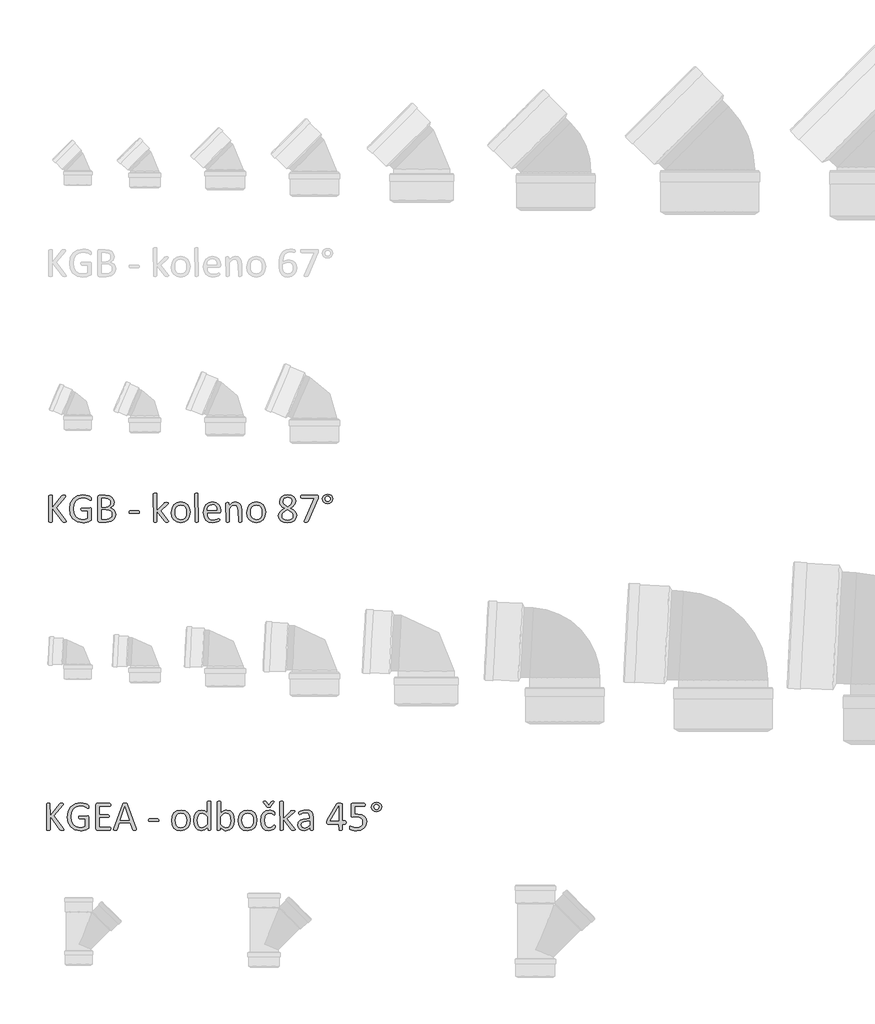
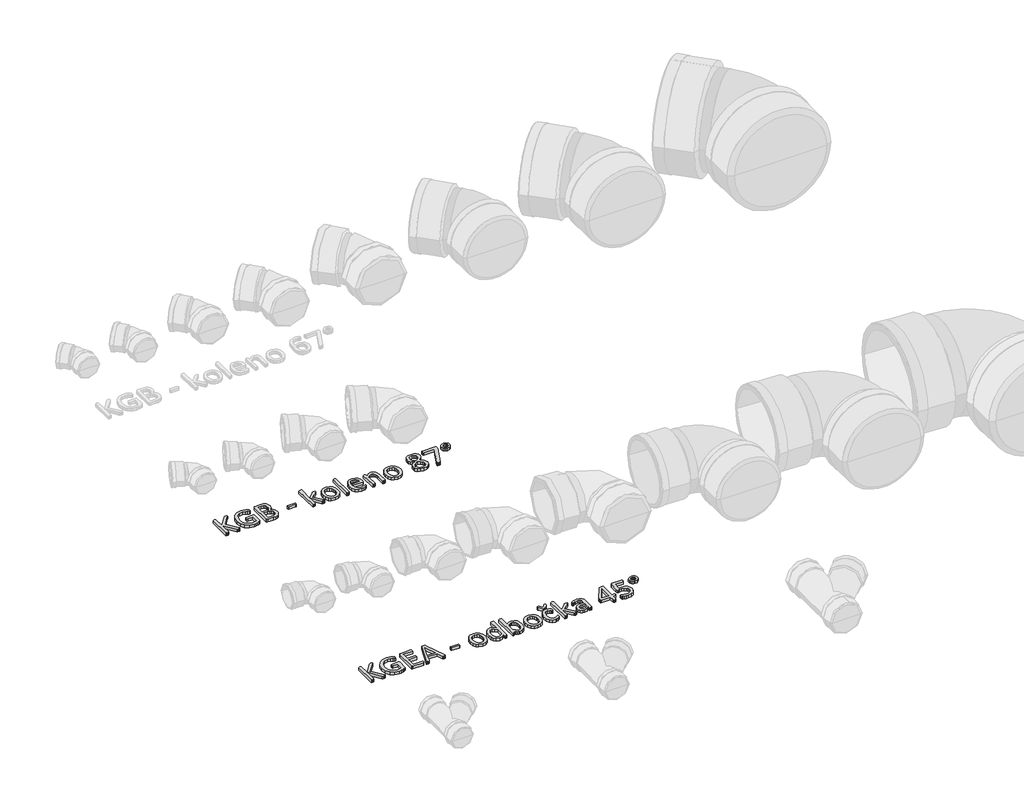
# One storey, part 9 of 11: 2 proxies.
"""IFC4 building model written with IfcOpenShell, lengths in millimetres."""

import ifcopenshell
import ifcopenshell.guid

model = None  # the IFC model being written
_history = None  # IfcOwnerHistory: only IFC2X3 demands one
_inside = {}  # id of a spatial element -> (the spatial element, [elements in it])
_under = {}  # id of a project, library or spatial element -> (it, [spatial elements below it])
_declared = {}  # id of a project -> (the project, [libraries it declares])
_typed = {}  # id of a type object -> (the type object, [elements of that type])
_made_of = {}  # id of a material, layer set ... -> (it, [elements and type objects made of it])


def new_model(schema):
    """Start an empty IFC model of exactly this schema.

    Asked for "IFC4X3", IfcOpenShell would pick the latest addendum, in which some entities
    have other attributes; the version numbers below select the first issue.
    IFC2X3 requires an IfcOwnerHistory on every rooted entity: one is made here for all.
    """
    global model, _history
    if schema == "IFC4X3":
        model = ifcopenshell.file(schema_version=(4, 3, 0, 0))
    else:
        model = ifcopenshell.file(schema=schema)
    _inside.clear()
    _under.clear()
    _declared.clear()
    _typed.clear()
    _made_of.clear()
    _history = None
    if model.schema == "IFC2X3":
        org = make("IfcOrganization", Name="unknown")
        user = make(
            "IfcPersonAndOrganization",
            ThePerson=make("IfcPerson", FamilyName="unknown"),
            TheOrganization=org,
        )
        app = make(
            "IfcApplication",
            ApplicationDeveloper=org,
            Version="unknown",
            ApplicationFullName="unknown",
            ApplicationIdentifier="unknown",
        )
        _history = make(
            "IfcOwnerHistory",
            OwningUser=user,
            OwningApplication=app,
            ChangeAction="ADDED",
            CreationDate=0,
        )
    return model


def make(cls, **values):
    """One entity of the class cls with the attributes given. An attribute that is None is left unset."""
    return model.create_entity(
        cls, **{name: value for name, value in values.items() if value is not None}
    )


def rooted(cls, **values):
    """An entity with a GlobalId (a new one), such as an element, a storey or a relation."""
    return make(cls, GlobalId=ifcopenshell.guid.new(), OwnerHistory=_history, **values)


def si_unit(unit_type, name, prefix=None):
    """IfcSIUnit, for example si_unit("LENGTHUNIT", "METRE", prefix="MILLI")."""
    return make("IfcSIUnit", UnitType=unit_type, Prefix=prefix, Name=name)


def assignment(units):
    """IfcUnitAssignment: the units of a project."""
    return None if units is None else make("IfcUnitAssignment", Units=units)


def point(xyz):
    """IfcCartesianPoint."""
    return None if xyz is None else make("IfcCartesianPoint", Coordinates=xyz)


def direction(xyz):
    """IfcDirection."""
    return None if xyz is None else make("IfcDirection", DirectionRatios=xyz)


def frame(location, z_axis=None, x_axis=None):
    """IfcAxis2Placement3D, a coordinate frame: its origin and axes. An axis left out is left unset."""
    return make(
        "IfcAxis2Placement3D",
        Location=point(location),
        Axis=direction(z_axis),
        RefDirection=direction(x_axis),
    )


def origin():
    """The frame at (0, 0, 0) with its axes left unset."""
    return frame((0.0, 0.0, 0.0))


def origin_with_axes():
    """The frame at (0, 0, 0) with the z axis (0, 0, 1) and the x axis (1, 0, 0) written out."""
    return frame((0.0, 0.0, 0.0), z_axis=(0.0, 0.0, 1.0), x_axis=(1.0, 0.0, 0.0))


def place(relative_to, where):
    """IfcLocalPlacement: puts the frame where relative to a parent placement (None: the world)."""
    return make(
        "IfcLocalPlacement", PlacementRelTo=relative_to, RelativePlacement=where
    )


def context(
    kind, dimensions, precision=None, world=None, true_north=None, identifier=None
):
    """IfcGeometricRepresentationContext, for example the 3D "Model" context."""
    return make(
        "IfcGeometricRepresentationContext",
        ContextIdentifier=identifier,
        ContextType=kind,
        CoordinateSpaceDimension=dimensions,
        Precision=precision,
        WorldCoordinateSystem=world,
        TrueNorth=true_north,
    )


def project(units=None, contexts=None):
    """IfcProject with its units and contexts."""
    return rooted(
        "IfcProject",
        Name="project",
        RepresentationContexts=contexts,
        UnitsInContext=assignment(units),
    )


def spatial(cls, under=None, at=None, **own):
    """A site, building, storey or space (cls), placed at a placement, below another one or the project."""
    s = rooted(cls, ObjectPlacement=at, **own)
    if under is not None:
        _under.setdefault(under.id(), (under, []))[1].append(s)
    return s


def polyline(points):
    """IfcPolyline through the points."""
    return make("IfcPolyline", Points=[point(p) for p in points])


def outline(outer, holes=None, kind="AREA"):
    """IfcArbitraryClosedProfileDef: a profile drawn as a closed curve; with holes, ...WithVoids."""
    if holes is None:
        return make("IfcArbitraryClosedProfileDef", ProfileType=kind, OuterCurve=outer)
    return make(
        "IfcArbitraryProfileDefWithVoids",
        ProfileType=kind,
        OuterCurve=outer,
        InnerCurves=holes,
    )


def extrude(swept, where, along, depth):
    """IfcExtrudedAreaSolid: the profile swept, set in the frame where, extruded along a direction by depth."""
    return make(
        "IfcExtrudedAreaSolid",
        SweptArea=swept,
        Position=where,
        ExtrudedDirection=direction(along),
        Depth=depth,
    )


def shape(context_of_items, identifier, shape_type, items):
    """IfcShapeRepresentation: the items that make up one representation, for example the "Body"."""
    return make(
        "IfcShapeRepresentation",
        ContextOfItems=context_of_items,
        RepresentationIdentifier=identifier,
        RepresentationType=shape_type,
        Items=items,
    )


def made_of(thing, what):
    """Note that an element or type object is made of a material, layer set ...; save() writes the relation."""
    if what is not None:
        _made_of.setdefault(what.id(), (what, []))[1].append(thing)
    return thing


def element(
    cls,
    number,
    at=None,
    inside=None,
    cuts=None,
    type_object=None,
    material=None,
    context=None,
    identifier="Body",
    shape_type=None,
    held_by="IfcProductDefinitionShape",
    body=None,
    shapes=None,
    **own,
):
    """One element of the class cls, such as IfcWall. Its Tag is "e" and its number.

    at: its placement. inside: the storey or other place that contains it. cuts: it is an
    opening in that element (IfcRelVoidsElement). A single representation is given by context,
    identifier, shape_type and body (its items); several are given by shapes. held_by: the class
    of the entity that holds the representations. save() writes the other relations.
    """
    e = rooted(cls, Tag="e%d" % number, ObjectPlacement=at, **own)
    if body is not None:
        shapes = [shape(context, identifier, shape_type, body)]
    if shapes is not None:
        e.Representation = make(held_by, Representations=shapes)
    if inside is not None:
        _inside.setdefault(inside.id(), (inside, []))[1].append(e)
    if cuts is not None:
        rooted(
            "IfcRelVoidsElement", RelatingBuildingElement=cuts, RelatedOpeningElement=e
        )
    if type_object is not None:
        _typed.setdefault(type_object.id(), (type_object, []))[1].append(e)
    return made_of(e, material)


def aggregate(whole, parts):
    """IfcRelAggregates: a whole, such as a stair, and the parts it consists of."""
    return rooted("IfcRelAggregates", RelatingObject=whole, RelatedObjects=parts)


def save(model, path):
    """Write the relations noted so far, then the file.

    IfcRelAggregates (storeys below a building ...), IfcRelContainedInSpatialStructure (elements
    in a storey), IfcRelDefinesByType, IfcRelAssociatesMaterial and IfcRelDeclares: one each for
    every whole, place, type object, material and project.
    """
    for whole, parts in _under.values():
        aggregate(whole, parts)
    for where, things in _inside.values():
        rooted(
            "IfcRelContainedInSpatialStructure",
            RelatedElements=things,
            RelatingStructure=where,
        )
    for kind, things in _typed.values():
        rooted("IfcRelDefinesByType", RelatedObjects=things, RelatingType=kind)
    for what, things in _made_of.values():
        rooted("IfcRelAssociatesMaterial", RelatedObjects=things, RelatingMaterial=what)
    for by, libraries in _declared.values():
        rooted("IfcRelDeclares", RelatingContext=by, RelatedDefinitions=libraries)
    model.write(path)


model = new_model("IFC4")

# Units and contexts
model_context = context("Model", 3, world=origin())
ifc_project = project(units=[si_unit("LENGTHUNIT", "METRE", prefix="MILLI")], contexts=[model_context])

# Site, building, storey
site = spatial("IfcSite", under=ifc_project)
building = spatial("IfcBuilding", under=site)
storey = spatial("IfcBuildingStorey", under=building, Name="Podlaží 1", Elevation=0.0)

# Proxies
placement = place(None, origin())
element("IfcBuildingElementProxy", 1, Name="120mm Arial", ObjectType="120mm Arial", at=placement, inside=storey, context=model_context, shape_type="SweptSolid", body=[
    extrude(outline(polyline([(-20472.3940185, 17748.9373299), (-20473.8234835, 17745.9155494), (-20476.3386182, 17745.3184311), (-20480.4098794, 17745.0832026), (-20485.6934717, 17745.35462), (-20488.7514412, 17746.3679117), (-20490.4342292, 17748.0506997), (-20534.5486061, 17807.6901526), (-20534.5486061, 17748.0506997), (-20536.2494886, 17745.8793604), (-20538.7465288, 17745.3184311), (-20542.6549395, 17745.0832026), (-20546.5271613, 17745.3184311), (-20549.0603905, 17745.8793604), (-20550.3812885, 17746.8021796), (-20550.3812885, 17862.5526591), (-20546.5271613, 17865.2849277), (-20542.6549395, 17865.5201562), (-20538.7465288, 17865.2849277), (-20536.2494886, 17864.7239984), (-20534.5486061, 17809.535791), (-20492.0989227, 17862.5526591), (-20490.7780246, 17863.9459352), (-20488.9866697, 17864.8325654), (-20486.399157, 17865.3392112), (-20482.4364628, 17865.5201562), (-20478.564241, 17865.2849277), (-20476.1938622, 17864.6878094), (-20475.2529486, 17860.1641859), (-20477.5509493, 17856.8347989), (-20517.3226476, 17809.535791), (-20474.4748853, 17752.9362131), (-20472.3940185, 17748.9373299)])), origin_with_axes(), (0.0, 0.0, 1.0), 15.0),
    extrude(outline(polyline([(-20360.8414616, 17849.7417572), (-20361.0224065, 17846.4666537), (-20361.5833359, 17844.096275), (-20362.5242496, 17842.7572824), (-20367.4278575, 17844.168653), (-20374.4123323, 17848.1494417), (-20384.8709499, 17852.1302304), (-20399.3103563, 17853.9396799), (-20417.1696221, 17850.2664975), (-20430.5595478, 17840.0973918), (-20438.9734876, 17824.6627882), (-20441.9047957, 17805.2654904), (-20438.7020702, 17784.5292), (-20429.8176736, 17769.2755414), (-20416.2648974, 17759.8664044), (-20399.0208444, 17756.6636789), (-20387.693691, 17757.984577), (-20377.0541284, 17761.9110823), (-20377.0541284, 17796.0372984), (-20404.0873028, 17796.0372984), (-20406.403398, 17797.7200863), (-20407.1633668, 17802.9493951), (-20406.9824219, 17806.1340261), (-20406.3853036, 17808.3053654), (-20366.4145658, 17809.9338699), (-20364.406077, 17809.57198), (-20362.578533, 17808.4682159), (-20361.293824, 17806.423538), (-20360.8414616, 17803.456041), (-20360.8414616, 17757.8579156), (-20361.6738083, 17753.6780874), (-20365.2022347, 17750.5839289), (-20372.1505205, 17747.6707153), (-20380.9444447, 17744.9927302), (-20390.1183533, 17743.3280367), (-20399.2741673, 17742.7671074), (-20424.1179079, 17747.145975), (-20442.610481, 17759.6130815), (-20454.1366738, 17778.9741903), (-20458.1174625, 17804.1798208), (-20453.8290674, 17830.4168374), (-20441.7238508, 17850.4474425), (-20422.9598603, 17863.2764389), (-20398.7313325, 17867.8362514), (-20385.8842416, 17866.6601093), (-20375.20849, 17863.9097462), (-20367.3554795, 17860.4717923), (-20362.9766119, 17857.4319172), (-20361.3119185, 17854.5729872), (-20360.8414616, 17849.7417572)])), origin_with_axes(), (0.0, 0.0, 1.0), 15.0),
    extrude(outline(polyline([(-20263.5654607, 17751.9952994), (-20263.7464056, 17748.9192354), (-20264.3978074, 17746.7298016), (-20265.4834771, 17745.463187), (-20324.7610401, 17745.0832026), (-20328.8142068, 17746.5307622), (-20330.7322232, 17751.5972206), (-20330.7322232, 17859.0061382), (-20328.7961123, 17864.0725966), (-20324.6886622, 17865.5201562), (-20266.7862807, 17865.5201562), (-20264.4159019, 17863.8735572), (-20263.8006891, 17861.6841234), (-20263.5654607, 17858.4271144), (-20263.8006891, 17855.3691449), (-20264.4159019, 17853.2159001), (-20314.5195564, 17851.6235846), (-20314.5195564, 17814.5660604), (-20273.6983774, 17814.5660604), (-20271.3099042, 17812.865178), (-20270.6946914, 17810.6757442), (-20270.5137465, 17807.3644517), (-20270.6946914, 17804.2702932), (-20271.3099042, 17802.1713319), (-20314.5195564, 17800.6694889), (-20314.5195564, 17758.9797742), (-20266.8224696, 17758.9797742), (-20264.3978074, 17757.3874587), (-20263.7464056, 17755.2342139), (-20263.5654607, 17751.9952994)])), origin_with_axes(), (0.0, 0.0, 1.0), 15.0),
    extrude(outline(polyline([(-20148.4844775, 17751.3438976), (-20147.7064142, 17748.0506997), (-20148.394005, 17746.1145888), (-20150.8548562, 17745.2641476), (-20155.4327632, 17745.0832026), (-20160.0468593, 17745.2279586), (-20162.6343719, 17745.6984154), (-20164.7333333, 17747.9783217), (-20175.011006, 17777.5085363), (-20224.915621, 17777.5085363), (-20234.7228369, 17748.3764006), (-20235.4828057, 17746.928841), (-20236.8217982, 17745.8793604), (-20239.3188384, 17745.2641476), (-20243.5529501, 17745.0832026), (-20247.9499122, 17745.3184311), (-20250.3564799, 17746.2050613), (-20251.0078817, 17748.1230777), (-20250.211724, 17751.4162756), (-20209.9695688, 17862.2269582), (-20209.0105606, 17863.8735572), (-20207.2373002, 17864.8687544), (-20204.2698031, 17865.3754002), (-20199.6918961, 17865.5201562), (-20194.7701937, 17865.3754002), (-20191.6036572, 17864.8687544), (-20189.7580188, 17863.8373682), (-20188.7266326, 17862.1545802), (-20148.4844775, 17751.3438976)]), holes=[polyline([(-20200.126164, 17849.3074893), (-20220.8986433, 17789.0890126), (-20179.1727396, 17789.0890126), (-20200.126164, 17849.3074893)])]), origin_with_axes(), (0.0, 0.0, 1.0), 15.0),
    extrude(outline(polyline([(-20048.1686015, 17790.2832492), (-20049.0190427, 17785.7234367), (-20051.4979884, 17784.4568221), (-20091.0887418, 17784.4568221), (-20093.6400655, 17785.7596256), (-20094.4905067, 17790.2832492), (-20093.6400655, 17794.7706838), (-20091.0887418, 17796.0372984), (-20051.4979884, 17796.0372984), (-20048.4038299, 17792.9974233), (-20048.1686015, 17790.2832492)])), origin_with_axes(), (0.0, 0.0, 1.0), 15.0),
    extrude(outline(polyline([(-19906.8867906, 17789.9937373), (-19909.5647758, 17771.0126129), (-19917.5806367, 17756.0665606), (-19930.9343735, 17746.2774393), (-19949.517419, 17742.7671074), (-19967.4309683, 17745.8612659), (-19980.1694922, 17754.8542295), (-19987.7691798, 17769.1850689), (-19990.26622, 17788.2928548), (-19987.6244238, 17807.2739793), (-19979.6628464, 17822.201937), (-19966.3633931, 17831.9367749), (-19947.7441586, 17835.4109178), (-19929.8125148, 17832.3167593), (-19917.0739909, 17823.3237956), (-19909.4381143, 17808.9929562), (-19906.8867906, 17789.9937373)]), holes=[polyline([(-19923.0994575, 17788.9080676), (-19924.3479776, 17801.4837411), (-19928.4554278, 17811.8699808), (-19936.1817768, 17818.9268335), (-19948.3593714, 17821.5143462), (-19959.9217532, 17819.1439675), (-19967.8833307, 17812.4490046), (-19972.5336157, 17802.2075209), (-19974.0535532, 17789.2699575), (-19972.8050331, 17776.6219061), (-19968.6613939, 17766.2718554), (-19960.8807614, 17759.2511916), (-19948.7212613, 17756.6636789), (-19937.1950685, 17759.0340577), (-19929.1792075, 17765.6747371), (-19924.5651115, 17775.8800318), (-19923.0994575, 17788.9080676)])]), origin_with_axes(), (0.0, 0.0, 1.0), 15.0),
    extrude(outline(polyline([(-19814.5686811, 17747.9783217), (-19817.9523516, 17745.2641476), (-19821.263644, 17745.0832026), (-19824.7015979, 17745.2641476), (-19826.9453152, 17745.7346044), (-19828.6100087, 17758.0388605), (-19842.0542179, 17746.8021796), (-19857.3078765, 17742.7671074), (-19872.7243856, 17746.3679117), (-19883.0563418, 17756.1027496), (-19888.8465799, 17770.542156), (-19890.6741238, 17788.0033429), (-19888.3942176, 17807.6358691), (-19881.6630657, 17822.5819214), (-19870.6254242, 17832.0815308), (-19855.3898601, 17835.4109178), (-19842.2351628, 17832.1720033), (-19830.4556471, 17822.6723938), (-19830.4556471, 17871.7808512), (-19828.7909536, 17873.9883794), (-19826.2939134, 17874.5493088), (-19822.4578806, 17874.7845372), (-19818.4409029, 17874.5493088), (-19815.9981462, 17873.9883794), (-19814.6772481, 17873.0655602), (-19814.5686811, 17747.9783217)]), holes=[polyline([(-19830.4556471, 17806.1702151), (-19842.0723124, 17817.587841), (-19853.7613556, 17821.5143462), (-19863.3514376, 17818.7639831), (-19869.7568885, 17811.5080909), (-19873.3395984, 17801.3027962), (-19874.461457, 17789.7404144), (-19873.5205433, 17777.5085363), (-19870.2454398, 17766.9051627), (-19864.0571228, 17759.4683255), (-19854.3765684, 17756.6636789), (-19848.6948972, 17757.4779312), (-19843.085604, 17760.1740108), (-19837.0963264, 17765.0595243), (-19830.4556471, 17772.4782669), (-19830.4556471, 17806.1702151)])]), origin_with_axes(), (0.0, 0.0, 1.0), 15.0),
    extrude(outline(polyline([(-19710.0186935, 17790.1746822), (-19712.3347888, 17770.4516835), (-19719.1564131, 17755.5056313), (-19730.2302436, 17746.0422108), (-19745.2667683, 17742.7671074), (-19752.504566, 17743.5632651), (-19759.0185839, 17746.1507778), (-19765.3878459, 17750.6563069), (-19772.1189977, 17757.2065138), (-19772.1189977, 17747.7611878), (-19776.009314, 17745.2641476), (-19779.3929844, 17745.0832026), (-19782.7223713, 17745.2641476), (-19784.9841831, 17745.7707934), (-19786.4498371, 17871.8170401), (-19782.3242924, 17874.6035923), (-19778.3796927, 17874.7845372), (-19774.362715, 17874.6035923), (-19771.9199583, 17874.0426629), (-19770.6352492, 17873.1017492), (-19770.2371703, 17821.5505352), (-19763.1984121, 17828.0102696), (-19756.5215437, 17832.2805703), (-19749.9894313, 17834.6690435), (-19743.095429, 17835.4109178), (-19727.8779593, 17831.7558299), (-19717.6002866, 17821.9667086), (-19711.828143, 17807.5815857), (-19710.0186935, 17790.1746822)]), holes=[polyline([(-19726.2313604, 17788.4014218), (-19727.1722741, 17800.7237724), (-19730.465472, 17811.3090515), (-19736.6718835, 17818.7096996), (-19746.3162489, 17821.5143462), (-19751.9617311, 17820.700094), (-19757.6253078, 17817.9859198), (-19763.6145854, 17813.1185009), (-19770.2371703, 17805.6273803), (-19770.2371703, 17772.00781), (-19758.548127, 17760.5901842), (-19746.9314617, 17756.6636789), (-19737.3956633, 17759.4321366), (-19730.9540234, 17766.7423122), (-19727.353219, 17776.947607), (-19726.2313604, 17788.4014218)])]), origin_with_axes(), (0.0, 0.0, 1.0), 15.0),
    extrude(outline(polyline([(-19608.1105021, 17789.9937373), (-19610.7884872, 17771.0126129), (-19618.8043482, 17756.0665606), (-19632.1580849, 17746.2774393), (-19650.7411305, 17742.7671074), (-19668.6546798, 17745.8612659), (-19681.3932037, 17754.8542295), (-19688.9928913, 17769.1850689), (-19691.4899315, 17788.2928548), (-19688.8481353, 17807.2739793), (-19680.8865578, 17822.201937), (-19667.5871046, 17831.9367749), (-19648.96787, 17835.4109178), (-19631.0362263, 17832.3167593), (-19618.2977023, 17823.3237956), (-19610.6618258, 17808.9929562), (-19608.1105021, 17789.9937373)]), holes=[polyline([(-19624.3231689, 17788.9080676), (-19625.571689, 17801.4837411), (-19629.6791392, 17811.8699808), (-19637.4054882, 17818.9268335), (-19649.5830829, 17821.5143462), (-19661.1454647, 17819.1439675), (-19669.1070421, 17812.4490046), (-19673.7573271, 17802.2075209), (-19675.2772646, 17789.2699575), (-19674.0287445, 17776.6219061), (-19669.8851054, 17766.2718554), (-19662.1044729, 17759.2511916), (-19649.9449727, 17756.6636789), (-19638.4187799, 17759.0340577), (-19630.402919, 17765.6747371), (-19625.788823, 17775.8800318), (-19624.3231689, 17788.9080676)])]), origin_with_axes(), (0.0, 0.0, 1.0), 15.0),
    extrude(outline(polyline([(-19527.047168, 17761.7301373), (-19527.1376405, 17759.1969081), (-19527.4633414, 17757.3874587), (-19529.4537357, 17753.7504654), (-19533.344052, 17750.222039), (-19539.5142745, 17746.4764787), (-19546.9511116, 17743.7984935), (-19555.274579, 17742.7671074), (-19570.9806, 17745.7707934), (-19582.4344148, 17754.5466231), (-19589.4731731, 17768.6965176), (-19591.8978353, 17788.0395319), (-19588.9303382, 17809.4815076), (-19580.8059103, 17824.1561424), (-19568.6645047, 17832.6424602), (-19553.5375075, 17835.4109178), (-19545.901631, 17834.5966655), (-19539.0981012, 17832.4615152), (-19533.5611859, 17829.4216402), (-19530.050854, 17826.4722376), (-19528.549011, 17824.5361267), (-19527.8614202, 17822.9980947), (-19527.4995304, 17821.0981728), (-19527.4090579, 17818.4382822), (-19528.2233101, 17813.6251467), (-19530.19561, 17812.2499652), (-19533.3259575, 17813.6975247), (-19537.7952976, 17816.8821557), (-19544.363599, 17820.0667867), (-19553.4289406, 17821.5143462), (-19562.9511682, 17819.4153849), (-19569.9492138, 17813.1185009), (-19574.2511798, 17802.8227337), (-19575.6851685, 17788.7271227), (-19574.2014199, 17774.7219842), (-19569.8225523, 17764.6614454), (-19562.7114161, 17758.6359788), (-19553.0670507, 17756.6636789), (-19544.0378981, 17758.4912229), (-19537.3067462, 17762.5082006), (-19532.5117053, 17766.4708948), (-19529.4718302, 17768.2441552), (-19527.1738295, 17764.6795399), (-19527.047168, 17761.7301373)])), origin_with_axes(), (0.0, 0.0, 1.0), 15.0),
    extrude(outline(polyline([(-19544.4178825, 17872.1065521), (-19543.2598348, 17873.3912611), (-19539.9666369, 17874.6578757), (-19537.0715178, 17874.7845372), (-19533.2897685, 17874.4769308), (-19531.4803191, 17873.5903006), (-19532.8374062, 17869.7904568), (-19547.7834584, 17849.3074893), (-19548.9596005, 17848.1494417), (-19550.551916, 17847.4799454), (-19552.8680113, 17847.1180555), (-19556.2154927, 17846.9913941), (-19559.3639347, 17847.1180555), (-19561.5895575, 17847.5161344), (-19563.1275895, 17848.2399142), (-19579.1593114, 17869.7904568), (-19580.5525874, 17872.0160796), (-19578.6526655, 17874.4769308), (-19574.8890107, 17874.7845372), (-19571.7767577, 17874.6578757), (-19569.8949303, 17874.2055134), (-19567.5788351, 17872.1065521), (-19555.9983588, 17855.9300742), (-19544.4178825, 17872.1065521)])), origin_with_axes(), (0.0, 0.0, 1.0), 15.0),
    extrude(outline(polyline([(-19436.7194529, 17748.0145107), (-19440.7907141, 17745.2641476), (-19444.7895973, 17745.0832026), (-19448.915142, 17745.2279586), (-19451.6655051, 17745.6803209), (-19453.4749545, 17746.5850457), (-19454.7415691, 17748.0145107), (-19489.9896438, 17793.5764471), (-19489.9896438, 17747.9059437), (-19494.1151885, 17745.2641476), (-19498.1321662, 17745.0832026), (-19502.076766, 17745.2641476), (-19504.5738062, 17745.8250769), (-19506.2023107, 17871.8170401), (-19502.076766, 17874.6035923), (-19498.1321662, 17874.7845372), (-19494.1151885, 17874.6035923), (-19491.6724318, 17874.0426629), (-19490.3877227, 17873.1017492), (-19489.9896438, 17795.6754085), (-19457.7814441, 17829.9101915), (-19456.1710341, 17831.4120346), (-19454.1444508, 17832.4072317), (-19451.3578987, 17832.9500666), (-19447.4675824, 17833.0948225), (-19443.4867937, 17832.9500666), (-19440.899281, 17832.4977042), (-19439.469816, 17831.683452), (-19439.6688554, 17828.1550256), (-19441.7859112, 17825.6037019), (-19473.776977, 17795.7839754), (-19438.9993591, 17752.3210003), (-19437.2441932, 17749.8058656), (-19436.7194529, 17748.0145107)])), origin_with_axes(), (0.0, 0.0, 1.0), 15.0),
    extrude(outline(polyline([(-19355.6561188, 17747.8697547), (-19356.4522765, 17746.1869668), (-19358.6236158, 17745.35462), (-19362.6767825, 17745.0832026), (-19366.7842327, 17745.35462), (-19369.0098555, 17746.1869668), (-19369.6974463, 17747.8697547), (-19369.6974463, 17756.1932221), (-19381.8931354, 17746.5669512), (-19396.1515968, 17742.7671074), (-19408.1120575, 17744.4860843), (-19417.2135881, 17749.4620702), (-19423.0581097, 17757.4598367), (-19425.1389766, 17768.2441552), (-19422.261952, 17780.5122223), (-19414.0108626, 17789.1613906), (-19400.8561653, 17794.3183214), (-19383.3406949, 17796.0372984), (-19371.8687856, 17796.0372984), (-19371.8687856, 17802.9493951), (-19372.8820773, 17811.9966423), (-19376.1390862, 17818.5468492), (-19381.9474189, 17822.4914489), (-19390.7232486, 17823.8304415), (-19400.7656928, 17822.3828819), (-19408.5463254, 17819.198251), (-19414.1375241, 17816.01362), (-19417.466911, 17814.5660604), (-19420.3258411, 17818.0944868), (-19420.506786, 17820.7543775), (-19420.1810851, 17824.5542212), (-19418.5887697, 17827.2141119), (-19414.246091, 17829.928286), (-19407.1530493, 17832.6062712), (-19398.3772196, 17834.61476), (-19388.7690432, 17835.4109178), (-19373.3887231, 17833.3662399), (-19363.1291449, 17827.3950568), (-19357.4293792, 17817.6421245), (-19355.6561188, 17804.0350648), (-19355.6561188, 17747.8697547)]), holes=[polyline([(-19371.8687856, 17784.4568221), (-19384.7520655, 17784.4568221), (-19395.500195, 17783.3892469), (-19403.0817881, 17780.2408049), (-19407.5149392, 17775.2467245), (-19408.9263097, 17768.5336671), (-19404.873143, 17758.1836164), (-19393.5098007, 17754.3475837), (-19382.5083482, 17757.4055532), (-19371.8687856, 17766.7604067), (-19371.8687856, 17784.4568221)])]), origin_with_axes(), (0.0, 0.0, 1.0), 15.0),
    extrude(outline(polyline([(-19208.8735817, 17779.8246315), (-19209.8144954, 17774.7400787), (-19212.4201025, 17772.8763458), (-19225.9547842, 17772.8763458), (-19225.9547842, 17747.9421327), (-19227.6918556, 17745.8069824), (-19230.2250848, 17745.2641476), (-19234.2058736, 17745.0832026), (-19238.0780953, 17745.2641476), (-19240.557041, 17745.8069824), (-19242.167451, 17772.8763458), (-19291.2035304, 17772.8763458), (-19293.0491688, 17773.1658577), (-19294.3700668, 17774.2334328), (-19295.2024136, 17776.4590556), (-19295.437642, 17780.2227104), (-19295.3471695, 17783.5159084), (-19294.9852796, 17786.175799), (-19294.2434054, 17788.4918943), (-19293.1577357, 17790.862273), (-19250.4185404, 17862.6974151), (-19249.0433588, 17863.9640297), (-19246.6910746, 17864.8687544), (-19243.1445537, 17865.3754002), (-19238.1866623, 17865.5201562), (-19232.685936, 17865.2849277), (-19228.9041868, 17864.6878094), (-19226.714753, 17863.7288012), (-19225.9547842, 17786.7729173), (-19212.4201025, 17786.7729173), (-19209.8506843, 17785.0539404), (-19208.8735817, 17779.8246315)]), holes=[polyline([(-19242.167451, 17851.5873956), (-19280.8896686, 17786.7729173), (-19242.167451, 17786.7729173), (-19242.167451, 17851.5873956)])]), origin_with_axes(), (0.0, 0.0, 1.0), 15.0),
    extrude(outline(polyline([(-19117.098307, 17782.7197506), (-19120.3734104, 17765.7290205), (-19129.6377915, 17753.189536), (-19143.8962529, 17745.426998), (-19162.2983535, 17742.7671074), (-19172.9560106, 17743.5632651), (-19181.9308798, 17745.535565), (-19188.3906142, 17747.8335658), (-19191.6114342, 17749.6249207), (-19193.4389781, 17754.2209222), (-19193.5294506, 17757.1341358), (-19193.3846946, 17759.9930659), (-19192.8599543, 17762.0558382), (-19187.8477794, 17762.5262951), (-19182.4918091, 17760.1740108), (-19174.1502473, 17757.7855376), (-19162.3345425, 17756.6636789), (-19150.6635938, 17758.129333), (-19141.5258742, 17762.743429), (-19135.5004076, 17770.6326285), (-19133.3109738, 17782.1769158), (-19135.1385177, 17792.2736436), (-19140.7478109, 17799.5476302), (-19150.3378929, 17803.8722144), (-19164.2163699, 17805.3016794), (-19174.0416803, 17804.7407501), (-19181.6956513, 17804.1798208), (-19185.4593061, 17805.3921519), (-19186.5811648, 17810.0786259), (-19186.5811648, 17859.4404061), (-19185.1336052, 17864.0183131), (-19180.9718716, 17865.5201562), (-19127.5931136, 17865.5201562), (-19124.9875065, 17863.8554627), (-19124.2818212, 17861.7203124), (-19124.0465928, 17858.6804373), (-19124.933223, 17853.469223), (-19127.4121687, 17851.6235846), (-19170.368498, 17851.6235846), (-19170.368498, 17816.2307539), (-19164.0173305, 17816.7916832), (-19156.5443044, 17816.8821557), (-19139.3364404, 17814.439399), (-19127.0683733, 17807.5453967), (-19119.6315362, 17796.7610781), (-19117.098307, 17782.7197506)])), origin_with_axes(), (0.0, 0.0, 1.0), 15.0),
    extrude(outline(polyline([(-19049.9315444, 17849.6693792), (-19051.6867104, 17841.4001954), (-19056.6265073, 17834.61476), (-19064.1176279, 17830.073042), (-19073.4543869, 17828.462632), (-19082.64639, 17829.9463805), (-19089.8118097, 17834.1262087), (-19094.5525672, 17840.5859431), (-19096.2534496, 17848.9455995), (-19094.4440002, 17857.4500117), (-19089.4680143, 17864.1449746), (-19082.0311772, 17868.5419367), (-19072.7306072, 17870.1523467), (-19063.5928876, 17868.6324092), (-19056.3731844, 17864.452581), (-19051.6324269, 17858.0290355), (-19049.9315444, 17849.6693792)]), holes=[polyline([(-19061.5120207, 17849.3436783), (-19062.3805565, 17853.9396799), (-19064.8052187, 17857.6128622), (-19068.51459, 17860.0194299), (-19073.201064, 17860.8879656), (-19077.7246876, 17860.0194299), (-19081.3797754, 17857.6128622), (-19083.8044376, 17853.9939633), (-19084.6729733, 17849.5246233), (-19083.8044376, 17844.7114878), (-19081.3254919, 17841.0021165), (-19077.5256481, 17838.5955488), (-19072.8029851, 17837.727013), (-19068.369834, 17838.6317377), (-19064.7690297, 17841.1287779), (-19062.3805565, 17844.8019603), (-19061.5120207, 17849.3436783)])]), origin_with_axes(), (0.0, 0.0, 1.0), 15.0),
])
element("IfcBuildingElementProxy", 2, Name="120mm Arial", ObjectType="120mm Arial", at=placement, inside=storey, context=model_context, shape_type="SweptSolid", body=[
    extrude(outline(polyline([(-20461.7095957, 19128.4256246), (-20463.1390607, 19125.4038441), (-20465.6541954, 19124.8067258), (-20469.7254566, 19124.5714973), (-20475.0090489, 19124.8429147), (-20478.0670185, 19125.8562064), (-20479.7498064, 19127.5389944), (-20523.8641833, 19187.1784473), (-20523.8641833, 19127.5389944), (-20525.5650658, 19125.3676551), (-20528.062106, 19124.8067258), (-20531.9705167, 19124.5714973), (-20535.8427385, 19124.8067258), (-20538.3759677, 19125.3676551), (-20539.6968658, 19126.2904743), (-20539.6968658, 19242.0409538), (-20535.8427385, 19244.7732224), (-20531.9705167, 19245.0084509), (-20528.062106, 19244.7732224), (-20525.5650658, 19244.2122931), (-20523.8641833, 19189.0240857), (-20481.4144999, 19242.0409538), (-20480.0936018, 19243.4342299), (-20478.3022469, 19244.3208601), (-20475.7147342, 19244.8275059), (-20471.75204, 19245.0084509), (-20467.8798182, 19244.7732224), (-20465.5094395, 19244.1761041), (-20464.5685258, 19239.6524806), (-20466.8665265, 19236.3230936), (-20506.6382248, 19189.0240857), (-20463.7904625, 19132.4245078), (-20461.7095957, 19128.4256246)])), origin_with_axes(), (0.0, 0.0, 1.0), 15.0),
    extrude(outline(polyline([(-20350.1570388, 19229.2300519), (-20350.3379838, 19225.9549484), (-20350.8989131, 19223.5845697), (-20351.8398268, 19222.2455771), (-20356.7434347, 19223.6569477), (-20363.7279095, 19227.6377364), (-20374.1865272, 19231.6185251), (-20388.6259335, 19233.4279746), (-20406.4851993, 19229.7547922), (-20419.8751251, 19219.5856865), (-20428.2890649, 19204.1510829), (-20431.2203729, 19184.7537851), (-20428.0176475, 19164.0174947), (-20419.1332508, 19148.7638361), (-20405.5804746, 19139.3546991), (-20388.3364216, 19136.1519736), (-20377.0092683, 19137.4728717), (-20366.3697057, 19141.399377), (-20366.3697057, 19175.5255931), (-20393.40288, 19175.5255931), (-20395.7189753, 19177.208381), (-20396.478944, 19182.4376898), (-20396.2979991, 19185.6223208), (-20395.7008808, 19187.7936601), (-20355.7301431, 19189.4221646), (-20353.7216542, 19189.0602747), (-20351.8941103, 19187.9565106), (-20350.6094012, 19185.9118327), (-20350.1570388, 19182.9443357), (-20350.1570388, 19137.3462102), (-20350.9893856, 19133.1663821), (-20354.5178119, 19130.0722236), (-20361.4660977, 19127.15901), (-20370.2600219, 19124.4810249), (-20379.4339305, 19122.8163314), (-20388.5897446, 19122.2554021), (-20413.4334851, 19126.6342697), (-20431.9260582, 19139.1013762), (-20443.452251, 19158.462485), (-20447.4330398, 19183.6681154), (-20443.1446446, 19209.9051321), (-20431.039428, 19229.9357372), (-20412.2754375, 19242.7647336), (-20388.0469097, 19247.3245461), (-20375.1998188, 19246.148404), (-20364.5240672, 19243.3980409), (-20356.6710568, 19239.960087), (-20352.2921892, 19236.9202119), (-20350.6274957, 19234.0612818), (-20350.1570388, 19229.2300519)])), origin_with_axes(), (0.0, 0.0, 1.0), 15.0),
    extrude(outline(polyline([(-20241.3005616, 19158.6253355), (-20242.7300267, 19148.3114737), (-20246.7470044, 19139.8070615), (-20252.9715104, 19133.2025711), (-20261.1864108, 19128.4256246), (-20270.9755321, 19125.5305055), (-20282.9178983, 19124.5714973), (-20314.1489953, 19124.5714973), (-20318.1478786, 19126.0190569), (-20320.0478005, 19131.0855152), (-20320.0478005, 19238.4944329), (-20318.1297841, 19243.5608913), (-20314.0766174, 19245.0084509), (-20286.7177421, 19245.0084509), (-20269.0032323, 19242.927584), (-20257.5132284, 19236.8840229), (-20250.5830371, 19227.1491851), (-20248.2488474, 19214.1030547), (-20249.2802336, 19205.7976819), (-20252.3020141, 19198.4694117), (-20257.3322835, 19192.4620396), (-20264.2805693, 19188.119361), (-20255.3057001, 19184.7718796), (-20248.0317135, 19178.5654681), (-20243.110011, 19169.7534494), (-20241.3005616, 19158.6253355)]), holes=[polyline([(-20264.4615142, 19211.9317154), (-20265.6738453, 19219.9294819), (-20269.4736891, 19225.9911374), (-20276.24103, 19229.7909812), (-20287.2967659, 19231.1118793), (-20303.8351336, 19231.1118793), (-20303.8351336, 19191.7382599), (-20285.6320725, 19191.7382599), (-20275.6077227, 19193.3848588), (-20269.2927442, 19197.7999154), (-20265.6195618, 19204.2777444), (-20264.4615142, 19211.9317154)]), polyline([(-20257.5132284, 19158.4805795), (-20259.2141109, 19167.8173385), (-20264.1900968, 19174.5846794), (-20272.4049972, 19178.746413), (-20284.8359147, 19180.1577836), (-20303.8351336, 19180.1577836), (-20303.8351336, 19138.4680689), (-20280.782748, 19138.4680689), (-20271.265044, 19139.752778), (-20264.1177188, 19143.5526218), (-20259.2683944, 19149.8133168), (-20257.5132284, 19158.4805795)])]), origin_with_axes(), (0.0, 0.0, 1.0), 15.0),
    extrude(outline(polyline([(-20134.7601797, 19169.7715439), (-20135.6106209, 19165.2117313), (-20138.0895666, 19163.9451168), (-20177.6803199, 19163.9451168), (-20180.2316436, 19165.2479203), (-20181.0820849, 19169.7715439), (-20180.2316436, 19174.2589785), (-20177.6803199, 19175.5255931), (-20138.0895666, 19175.5255931), (-20134.9954081, 19172.485718), (-20134.7601797, 19169.7715439)])), origin_with_axes(), (0.0, 0.0, 1.0), 15.0),
    extrude(outline(polyline([(-20002.7427498, 19127.5028054), (-20006.814011, 19124.7524423), (-20010.8128943, 19124.5714973), (-20014.9384389, 19124.7162533), (-20017.6888021, 19125.1686156), (-20019.4982515, 19126.0733404), (-20020.7648661, 19127.5028054), (-20056.0129408, 19173.0647418), (-20056.0129408, 19127.3942384), (-20060.1384855, 19124.7524423), (-20064.1554632, 19124.5714973), (-20068.100063, 19124.7524423), (-20070.5971032, 19125.3133716), (-20072.2256076, 19251.3053348), (-20068.100063, 19254.0918869), (-20064.1554632, 19254.2728319), (-20060.1384855, 19254.0918869), (-20057.6957288, 19253.5309576), (-20056.4110197, 19252.5900439), (-20056.0129408, 19175.1637032), (-20023.8047411, 19209.3984862), (-20022.1943311, 19210.9003292), (-20020.1677478, 19211.8955264), (-20017.3811957, 19212.4383613), (-20013.4908794, 19212.5831172), (-20009.5100907, 19212.4383613), (-20006.922578, 19211.9859989), (-20005.493113, 19211.1717467), (-20005.6921524, 19207.6433203), (-20007.8092082, 19205.0919966), (-20039.800274, 19175.2722701), (-20005.0226561, 19131.809295), (-20003.2674902, 19129.2941603), (-20002.7427498, 19127.5028054)])), origin_with_axes(), (0.0, 0.0, 1.0), 15.0),
    extrude(outline(polyline([(-19907.7828442, 19169.482032), (-19910.4608293, 19150.5009075), (-19918.4766903, 19135.5548553), (-19931.830427, 19125.7657339), (-19950.4134726, 19122.2554021), (-19968.3270218, 19125.3495606), (-19981.0655458, 19134.3425242), (-19988.6652333, 19148.6733636), (-19991.1622735, 19167.7811495), (-19988.5204774, 19186.762274), (-19980.5588999, 19201.6902317), (-19967.2594467, 19211.4250696), (-19948.6402121, 19214.8992125), (-19930.7085683, 19211.805054), (-19917.9700444, 19202.8120903), (-19910.3341679, 19188.4812509), (-19907.7828442, 19169.482032)]), holes=[polyline([(-19923.995511, 19168.3963623), (-19925.2440311, 19180.9720358), (-19929.3514813, 19191.3582755), (-19937.0778303, 19198.4151282), (-19949.2554249, 19201.0026409), (-19960.8178067, 19198.6322622), (-19968.7793842, 19191.9372993), (-19973.4296692, 19181.6958156), (-19974.9496067, 19168.7582522), (-19973.7010866, 19156.1102008), (-19969.5574474, 19145.7601501), (-19961.7768149, 19138.7394863), (-19949.6173148, 19136.1519736), (-19938.091122, 19138.5223524), (-19930.0752611, 19145.1630318), (-19925.461165, 19155.3683265), (-19923.995511, 19168.3963623)])]), origin_with_axes(), (0.0, 0.0, 1.0), 15.0),
    extrude(outline(polyline([(-19870.72532, 19127.4304274), (-19874.8508647, 19124.7524423), (-19878.8678424, 19124.5714973), (-19882.8124422, 19124.7524423), (-19885.3094824, 19125.3133716), (-19886.9379868, 19251.3053348), (-19882.8124422, 19254.0918869), (-19878.8678424, 19254.2728319), (-19874.8508647, 19254.0918869), (-19872.408108, 19253.5309576), (-19870.72532, 19127.4304274)])), origin_with_axes(), (0.0, 0.0, 1.0), 15.0),
    extrude(outline(polyline([(-19771.1332238, 19172.8837969), (-19772.9245788, 19167.7811495), (-19777.0320289, 19166.261212), (-19831.3517006, 19166.261212), (-19829.9946135, 19152.8712863), (-19825.4890845, 19142.6659915), (-19817.2741841, 19136.1157846), (-19804.89755, 19133.8358784), (-19794.6198773, 19134.9034535), (-19786.8030558, 19137.3100213), (-19781.3928021, 19139.716589), (-19778.1900766, 19140.7841642), (-19775.8920758, 19137.8890451), (-19775.7654144, 19135.2472489), (-19775.8558868, 19133.311138), (-19780.3071324, 19127.9189788), (-19786.6582999, 19125.4219386), (-19795.705547, 19123.2325048), (-19806.6708105, 19122.2554021), (-19824.3491313, 19125.1505211), (-19837.1057498, 19133.7635004), (-19844.9225713, 19148.1124343), (-19847.5643674, 19168.1430394), (-19844.7959098, 19187.6850932), (-19836.8162378, 19202.3778225), (-19824.2224699, 19211.660298), (-19807.6841022, 19214.8992125), (-19791.0371675, 19211.768865), (-19779.7281086, 19203.3368307), (-19773.2140907, 19190.9059131), (-19771.1332238, 19175.670349), (-19771.1332238, 19172.8837969)]), holes=[polyline([(-19787.3458907, 19177.8416883), (-19788.5175092, 19188.46768), (-19792.5390105, 19196.5333008), (-19799.310875, 19201.6223773), (-19808.7335828, 19203.3187362), (-19818.3779482, 19201.2197748), (-19825.3081395, 19195.6285761), (-19829.6327236, 19187.5041482), (-19831.3517006, 19177.8416883), (-19787.3458907, 19177.8416883)])]), origin_with_axes(), (0.0, 0.0, 1.0), 15.0),
    extrude(outline(polyline([(-19676.1733182, 19127.4304274), (-19680.2988629, 19124.7524423), (-19684.2434626, 19124.5714973), (-19688.2604403, 19124.7524423), (-19690.703197, 19125.2952771), (-19692.385985, 19175.778916), (-19693.4535602, 19187.1422583), (-19696.5477187, 19194.5790955), (-19701.8132165, 19199.3560419), (-19709.2862426, 19201.0026409), (-19720.2696006, 19196.9675687), (-19731.7596044, 19185.115675), (-19731.7596044, 19127.4304274), (-19735.8851491, 19124.7524423), (-19739.9021268, 19124.5714973), (-19743.8467266, 19124.7524423), (-19746.3437668, 19125.2952771), (-19747.9722712, 19209.7603761), (-19744.2448054, 19212.4383613), (-19740.5897176, 19212.5831172), (-19737.0070077, 19212.4383613), (-19734.7994794, 19211.8955264), (-19733.3157309, 19198.8674906), (-19719.4734428, 19211.0450852), (-19705.5587768, 19214.8992125), (-19691.7345832, 19212.0764714), (-19682.6511471, 19204.5310673), (-19677.6751612, 19193.4753313), (-19676.1733182, 19178.2397672), (-19676.1733182, 19127.4304274)])), origin_with_axes(), (0.0, 0.0, 1.0), 15.0),
    extrude(outline(polyline([(-19569.6329362, 19169.482032), (-19572.3109214, 19150.5009075), (-19580.3267823, 19135.5548553), (-19593.680519, 19125.7657339), (-19612.2635646, 19122.2554021), (-19630.1771139, 19125.3495606), (-19642.9156378, 19134.3425242), (-19650.5153254, 19148.6733636), (-19653.0123656, 19167.7811495), (-19650.3705694, 19186.762274), (-19642.408992, 19201.6902317), (-19629.1095387, 19211.4250696), (-19610.4903042, 19214.8992125), (-19592.5586604, 19211.805054), (-19579.8201365, 19202.8120903), (-19572.1842599, 19188.4812509), (-19569.6329362, 19169.482032)]), holes=[polyline([(-19585.845603, 19168.3963623), (-19587.0941231, 19180.9720358), (-19591.2015733, 19191.3582755), (-19598.9279224, 19198.4151282), (-19611.105517, 19201.0026409), (-19622.6678988, 19198.6322622), (-19630.6294762, 19191.9372993), (-19635.2797612, 19181.6958156), (-19636.7996988, 19168.7582522), (-19635.5511787, 19156.1102008), (-19631.4075395, 19145.7601501), (-19623.626907, 19138.7394863), (-19611.4674068, 19136.1519736), (-19599.941214, 19138.5223524), (-19591.9253531, 19145.1630318), (-19587.3112571, 19155.3683265), (-19585.845603, 19168.3963623)])]), origin_with_axes(), (0.0, 0.0, 1.0), 15.0),
    extrude(outline(polyline([(-19430.6672206, 19155.2235705), (-19433.4537727, 19141.182243), (-19441.4877282, 19130.7960033), (-19454.4614805, 19124.4086469), (-19472.1398014, 19122.2554021), (-19488.7686415, 19124.2277019), (-19501.2176536, 19130.0541291), (-19509.0344751, 19139.5356441), (-19511.7305547, 19152.4008294), (-19509.8487273, 19162.9137306), (-19504.456568, 19171.7438438), (-19495.8073998, 19179.3073423), (-19484.1907345, 19186.0203997), (-19493.9436669, 19192.1544332), (-19501.1090866, 19199.1931915), (-19505.5784267, 19207.3176194), (-19507.0983642, 19216.7086619), (-19504.8546469, 19228.6872171), (-19498.0511171, 19238.4039605), (-19486.4525463, 19244.9360729), (-19470.04084, 19247.3245461), (-19454.4614805, 19245.1170178), (-19443.6228785, 19239.1096457), (-19437.3259945, 19230.1347766), (-19435.2994111, 19219.0609461), (-19436.8193486, 19209.8689431), (-19441.2705942, 19201.5092867), (-19448.4902974, 19194.1267331), (-19458.2794188, 19187.6850932), (-19446.4818086, 19180.9539413), (-19437.8145458, 19173.4809152), (-19432.4947645, 19165.0307864), (-19430.6672206, 19155.2235705)]), holes=[polyline([(-19451.512078, 19218.1200324), (-19452.8148815, 19225.4483026), (-19456.6147253, 19231.0395013), (-19462.8211368, 19234.5498332), (-19471.2712656, 19235.7440698), (-19485.927806, 19231.0214068), (-19490.8856974, 19218.1200324), (-19489.6733663, 19211.1717467), (-19485.9097115, 19205.0558076), (-19479.4680715, 19199.4103254), (-19470.221785, 19193.6924652), (-19456.3433079, 19204.7482012), (-19451.512078, 19218.1200324)]), polyline([(-19446.8798874, 19152.9436643), (-19448.4541084, 19160.9414307), (-19453.2310549, 19167.6544881), (-19461.2107269, 19173.7161436), (-19472.3207463, 19179.7958937), (-19482.56223, 19173.8428051), (-19489.8000277, 19167.6906771), (-19494.0703284, 19161.0319032), (-19495.5178879, 19153.3055542), (-19493.9753323, 19145.0589884), (-19489.3476654, 19138.9204312), (-19481.6529817, 19135.1070166), (-19470.9093758, 19133.8358784), (-19460.4869471, 19135.1205875), (-19452.9596375, 19138.9747147), (-19448.3998249, 19145.0363703), (-19446.8798874, 19152.9436643)])]), origin_with_axes(), (0.0, 0.0, 1.0), 15.0),
    extrude(outline(polyline([(-19333.3912197, 19238.204921), (-19333.5359756, 19235.201235), (-19333.91596, 19232.6137223), (-19334.5673618, 19230.2252491), (-19335.52637, 19227.7824924), (-19379.0255341, 19128.1903962), (-19380.1835817, 19126.3809468), (-19381.9568422, 19125.2771826), (-19384.7072053, 19124.7162533), (-19388.796561, 19124.5714973), (-19393.7544524, 19124.8429147), (-19396.3238706, 19125.729545), (-19397.0295559, 19127.2132935), (-19396.3600596, 19129.3122548), (-19350.6533672, 19231.1118793), (-19408.5919377, 19231.1118793), (-19411.2518283, 19232.9575177), (-19412.1384585, 19238.0963541), (-19411.9032301, 19241.1543236), (-19411.1975448, 19243.3075684), (-19410.0756862, 19244.5922775), (-19338.2405441, 19245.0084509), (-19335.9606379, 19244.7370334), (-19334.4587948, 19243.6332693), (-19333.6626371, 19241.5162135), (-19333.3912197, 19238.204921)])), origin_with_axes(), (0.0, 0.0, 1.0), 15.0),
    extrude(outline(polyline([(-19268.5405524, 19229.1576739), (-19270.2957183, 19220.8884901), (-19275.2355153, 19214.1030547), (-19282.7266359, 19209.5613367), (-19292.0633949, 19207.9509267), (-19301.255398, 19209.4346752), (-19308.4208177, 19213.6145034), (-19313.1615752, 19220.0742378), (-19314.8624576, 19228.4338941), (-19313.0530082, 19236.9383064), (-19308.0770223, 19243.6332693), (-19300.6401852, 19248.0302314), (-19291.3396151, 19249.6406414), (-19282.2018955, 19248.1207039), (-19274.9821924, 19243.9408757), (-19270.2414349, 19237.5173302), (-19268.5405524, 19229.1576739)]), holes=[polyline([(-19280.1210287, 19228.831973), (-19280.9895644, 19233.4279746), (-19283.4142267, 19237.1011569), (-19287.123598, 19239.5077246), (-19291.810072, 19240.3762603), (-19296.3336955, 19239.5077246), (-19299.9887834, 19237.1011569), (-19302.4134456, 19233.482258), (-19303.2819813, 19229.012918), (-19302.4134456, 19224.1997825), (-19299.9344999, 19220.4904112), (-19296.1346561, 19218.0838435), (-19291.4119931, 19217.2153077), (-19286.978842, 19218.1200324), (-19283.3780377, 19220.6170726), (-19280.9895644, 19224.290255), (-19280.1210287, 19228.831973)])]), origin_with_axes(), (0.0, 0.0, 1.0), 15.0),
])

save(model, "model.ifc")
